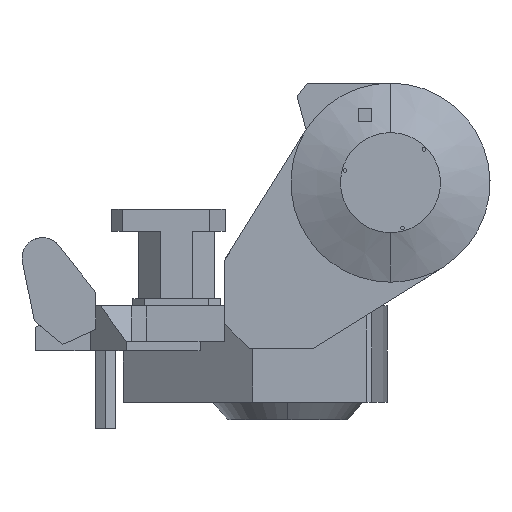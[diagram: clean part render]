
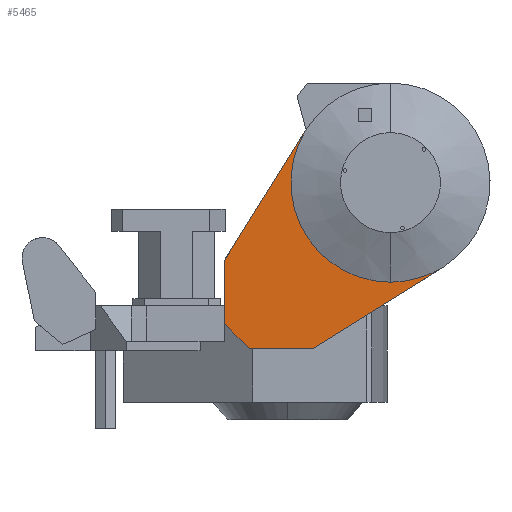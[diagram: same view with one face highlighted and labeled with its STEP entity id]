
A CAD part, front view. The second image highlights one B-rep face of the part: STEP entity #5465.
In plain terms, the highlighted planar face has unit normal (0, -1, 0).
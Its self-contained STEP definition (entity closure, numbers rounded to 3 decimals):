
#298 = ORIENTED_EDGE ( 'NONE', *, *, #4199, .T. ) ;
#321 = VERTEX_POINT ( 'NONE', #1874 ) ;
#613 = EDGE_CURVE ( 'NONE', #5118, #642, #2730, .T. ) ;
#642 = VERTEX_POINT ( 'NONE', #2815 ) ;
#658 = ORIENTED_EDGE ( 'NONE', *, *, #1633, .T. ) ;
#841 = EDGE_CURVE ( 'NONE', #3122, #321, #4031, .T. ) ;
#1054 = CARTESIAN_POINT ( 'NONE',  ( 302.804, -290., 515.479 ) ) ;
#1633 = EDGE_CURVE ( 'NONE', #642, #4385, #4857, .T. ) ;
#1749 = LINE ( 'NONE', #1750, #1751 ) ;
#1750 = CARTESIAN_POINT ( 'NONE',  ( 49.185, -290., 357. ) ) ;
#1751 = VECTOR ( 'NONE', #1752, 1000. ) ;
#1752 = DIRECTION ( 'NONE',  ( 0.848, 0., 0.53 ) ) ;
#1871 = CARTESIAN_POINT ( 'NONE',  ( 49.185, -290., 357. ) ) ;
#1874 = CARTESIAN_POINT ( 'NONE',  ( 200., -290., 486. ) ) ;
#2730 = LINE ( 'NONE', #2731, #2732 ) ;
#2731 = CARTESIAN_POINT ( 'NONE',  ( -123., -290., 404.788 ) ) ;
#2732 = VECTOR ( 'NONE', #2733, 1000. ) ;
#2733 = DIRECTION ( 'NONE',  ( 0.707, 0., -0.707 ) ) ;
#2815 = CARTESIAN_POINT ( 'NONE',  ( -75.212, -290., 357. ) ) ;
#2937 = CARTESIAN_POINT ( 'NONE',  ( -123., -290., 404.788 ) ) ;
#3122 = VERTEX_POINT ( 'NONE', #1054 ) ;
#3278 = LINE ( 'NONE', #3283, #3284 ) ;
#3283 = CARTESIAN_POINT ( 'NONE',  ( -123., -290., 529.185 ) ) ;
#3284 = VECTOR ( 'NONE', #3285, 1000. ) ;
#3285 = DIRECTION ( 'NONE',  ( 0., 0., -1. ) ) ;
#4031 = CIRCLE ( 'NONE', #4032, 194. ) ;
#4032 = AXIS2_PLACEMENT_3D ( 'NONE', #4033, #4034, #4035 ) ;
#4033 = CARTESIAN_POINT ( 'NONE',  ( 200., -290., 680. ) ) ;
#4034 = DIRECTION ( 'NONE',  ( 0., 1., 0. ) ) ;
#4035 = DIRECTION ( 'NONE',  ( 0., 0., 1. ) ) ;
#4199 = EDGE_CURVE ( 'NONE', #4385, #3122, #1749, .T. ) ;
#4360 = CIRCLE ( 'NONE', #4361, 194. ) ;
#4361 = AXIS2_PLACEMENT_3D ( 'NONE', #4362, #4363, #4364 ) ;
#4362 = CARTESIAN_POINT ( 'NONE',  ( 200., -290., 680. ) ) ;
#4363 = DIRECTION ( 'NONE',  ( 0., 1., 0. ) ) ;
#4364 = DIRECTION ( 'NONE',  ( 0., 0., 1. ) ) ;
#4385 = VERTEX_POINT ( 'NONE', #1871 ) ;
#4407 = CARTESIAN_POINT ( 'NONE',  ( 35.479, -290., 782.804 ) ) ;
#4517 = FACE_OUTER_BOUND ( 'NONE', #5682, .T. ) ;
#4518 = PLANE ( 'NONE',  #4519 ) ;
#4519 = AXIS2_PLACEMENT_3D ( 'NONE', #4520, #4521, #4522 ) ;
#4520 = CARTESIAN_POINT ( 'NONE',  ( 200., -290., 680. ) ) ;
#4521 = DIRECTION ( 'NONE',  ( 0., -1., 0. ) ) ;
#4522 = DIRECTION ( 'NONE',  ( 0., 0., -1. ) ) ;
#4834 = LINE ( 'NONE', #4835, #4836 ) ;
#4835 = CARTESIAN_POINT ( 'NONE',  ( 35.479, -290., 782.804 ) ) ;
#4836 = VECTOR ( 'NONE', #4837, 1000. ) ;
#4837 = DIRECTION ( 'NONE',  ( -0.53, 0., -0.848 ) ) ;
#4857 = LINE ( 'NONE', #4858, #4859 ) ;
#4858 = CARTESIAN_POINT ( 'NONE',  ( -75.212, -290., 357. ) ) ;
#4859 = VECTOR ( 'NONE', #4860, 1000. ) ;
#4860 = DIRECTION ( 'NONE',  ( 1., 0., 0. ) ) ;
#4866 = CARTESIAN_POINT ( 'NONE',  ( -123., -290., 529.185 ) ) ;
#5118 = VERTEX_POINT ( 'NONE', #2937 ) ;
#5146 = ORIENTED_EDGE ( 'NONE', *, *, #613, .T. ) ;
#5266 = ORIENTED_EDGE ( 'NONE', *, *, #841, .T. ) ;
#5299 = ORIENTED_EDGE ( 'NONE', *, *, #5405, .T. ) ;
#5405 = EDGE_CURVE ( 'NONE', #321, #5423, #4360, .T. ) ;
#5423 = VERTEX_POINT ( 'NONE', #4407 ) ;
#5435 = ORIENTED_EDGE ( 'NONE', *, *, #5563, .T. ) ;
#5465 = ADVANCED_FACE ( 'NONE', ( #4517 ), #4518, .T. ) ;
#5563 = EDGE_CURVE ( 'NONE', #5423, #5574, #4834, .T. ) ;
#5574 = VERTEX_POINT ( 'NONE', #4866 ) ;
#5618 = ORIENTED_EDGE ( 'NONE', *, *, #5643, .T. ) ;
#5643 = EDGE_CURVE ( 'NONE', #5574, #5118, #3278, .T. ) ;
#5682 = EDGE_LOOP ( 'NONE', ( #298, #5266, #5299, #5435, #5618, #5146, #658 ) ) ;
